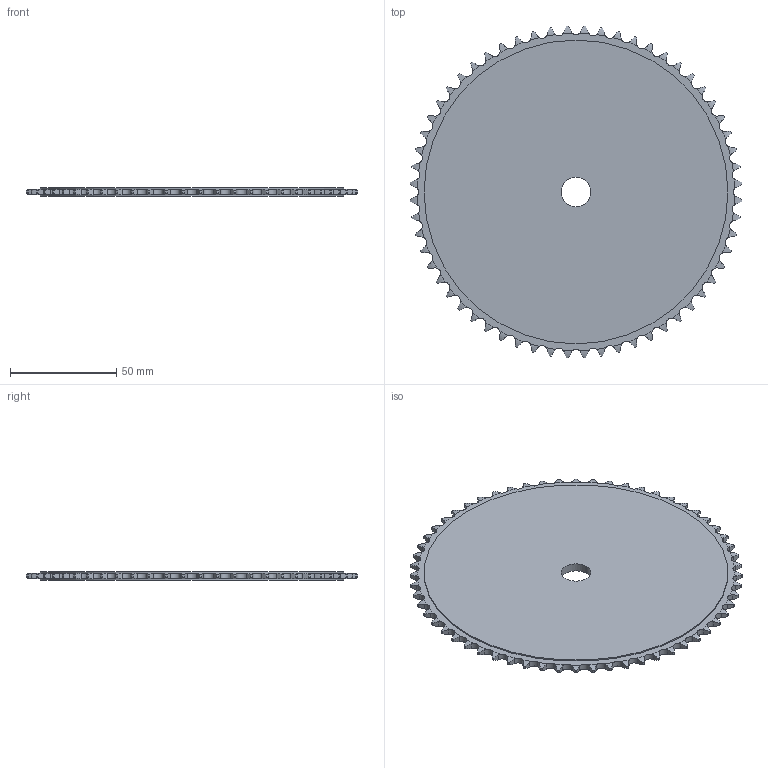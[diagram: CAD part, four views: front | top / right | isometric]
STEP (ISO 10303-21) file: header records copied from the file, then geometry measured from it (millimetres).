
FILE_DESCRIPTION((''),'2;1');
FILE_NAME('500-081-0060_PRT','2021-02-12T',('Brieden'),('Brieden'),'PRO/ENGINEER BY PARAMETRIC TECHNOLOGY CORPORATION, 2010160','PRO/ENGINEER BY PARAMETRIC TECHNOLOGY CORPORATION, 2010160','');
FILE_SCHEMA(('AUTOMOTIVE_DESIGN { 1 0 10303 214 1 1 1 1 }'));
Length unit declared in the file: millimetre
Products named in the file (1): 500-081-0060_PRT
Bounding box: 155.9 x 155.9 x 4 mm (x, y, z)
Volume: 68569.3 mm3; surface area: 38012.3 mm2
Topology: 1 solids, 1 shells, 370 faces, 1098 edges, 732 vertices
Faces by surface type: cylinder 246, torus 120, plane 4
Entity records: 17568 total; most frequent: CARTESIAN_POINT 4869, ORIENTED_EDGE 2196, DIRECTION 1730, PRESENTATION_STYLE_ASSIGNMENT 1099, STYLED_ITEM 1099, CURVE_STYLE 1098, EDGE_CURVE 1098, AXIS2_PLACEMENT_3D 742
